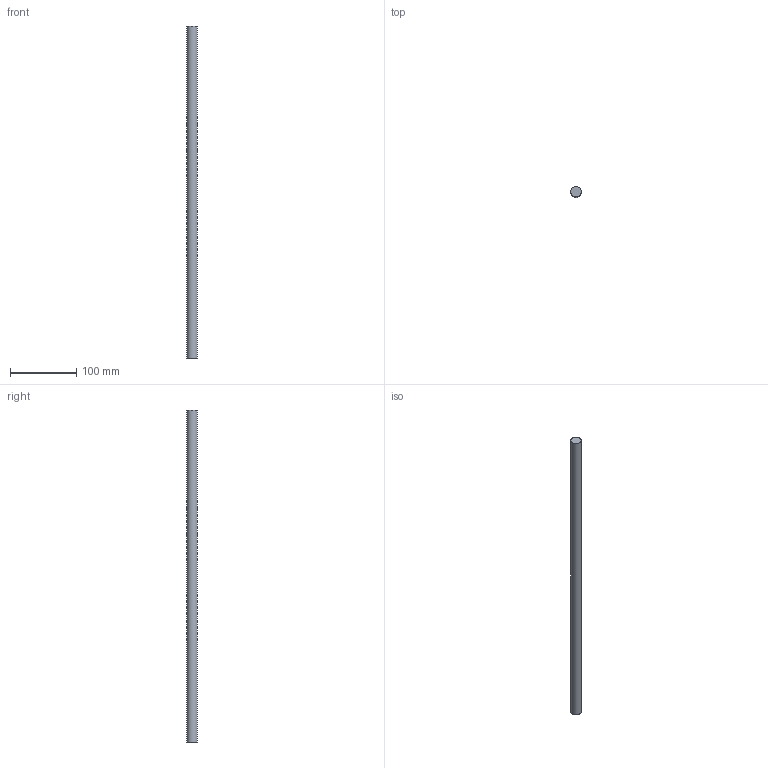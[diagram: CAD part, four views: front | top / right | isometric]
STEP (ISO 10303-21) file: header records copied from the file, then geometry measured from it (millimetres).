
FILE_DESCRIPTION(/* description */ (''),/* implementation_level */ '2;1');
FILE_NAME(/* name */ 'C:\Users\David\Desktop\stepFiles\Profilfuehrung\WF16x500.stp',/* time_stamp */ '2018-06-24T15:46:54+02:00',/* author */ ('David'),/* organization */ (''),/* preprocessor_version */ 'ST-DEVELOPER v17',/* originating_system */ 'Autodesk Inventor 2019',/* authorisation */ '');
FILE_SCHEMA (('AUTOMOTIVE_DESIGN { 1 0 10303 214 3 1 1 }'));
Length unit declared in the file: millimetre
Products named in the file (1): Wellenfuehrung
Bounding box: 16 x 16 x 500 mm (x, y, z)
Volume: 100531 mm3; surface area: 25534.9 mm2
Topology: 1 solids, 1 shells, 3 faces, 3 edges, 2 vertices
Faces by surface type: plane 2, cylinder 1
Full cylindrical faces by diameter (mm): 16 x1
Entity records: 98 total; most frequent: DIRECTION 13, CARTESIAN_POINT 9, ORIENTED_EDGE 6, AXIS2_PLACEMENT_3D 6, FACE_OUTER_BOUND 3, EDGE_LOOP 3, EDGE_CURVE 3, ADVANCED_FACE 3
